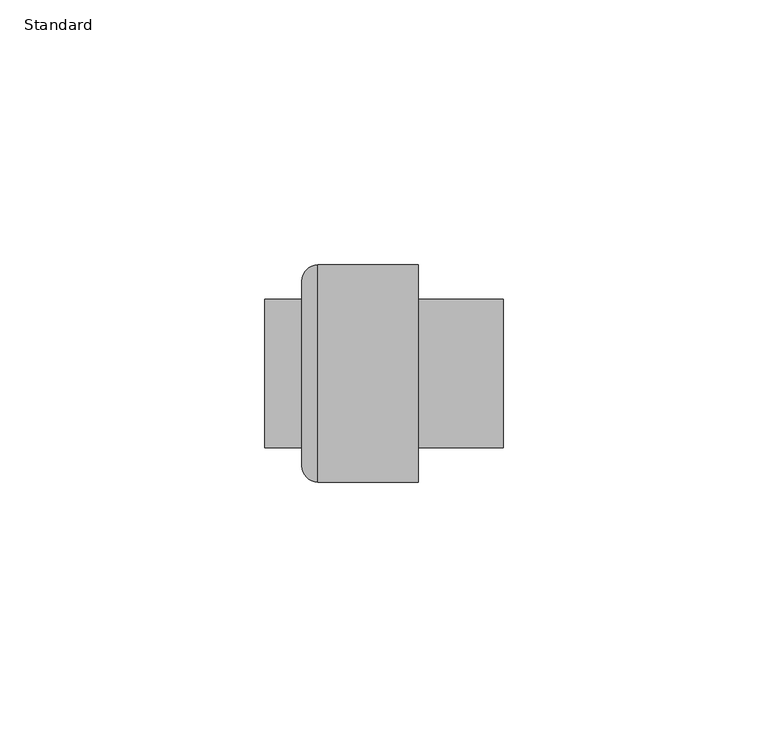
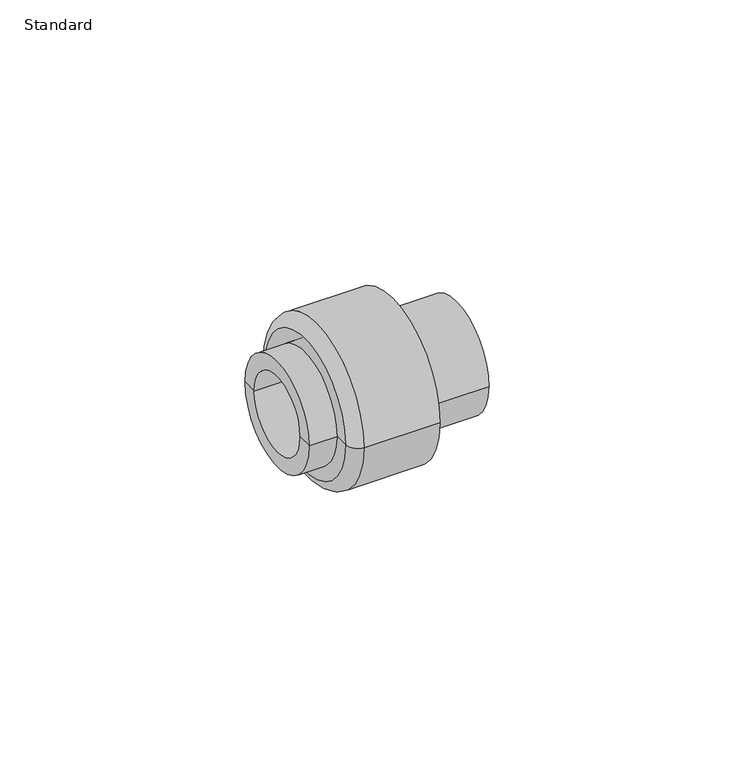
"""IFC4 building model written with IfcOpenShell, lengths in millimetres: pipe fitting geometry, Durapipe_PipeFitting_PVC_SocketUnions : Standard."""

import ifcopenshell
import ifcopenshell.guid

model = None  # the IFC model being written
_history = None  # IfcOwnerHistory: only IFC2X3 demands one
_inside = {}  # id of a spatial element -> (the spatial element, [elements in it])
_under = {}  # id of a project, library or spatial element -> (it, [spatial elements below it])
_declared = {}  # id of a project -> (the project, [libraries it declares])
_typed = {}  # id of a type object -> (the type object, [elements of that type])
_made_of = {}  # id of a material, layer set ... -> (it, [elements and type objects made of it])


def new_model(schema):
    """Start an empty IFC model of exactly this schema.

    Asked for "IFC4X3", IfcOpenShell would pick the latest addendum, in which some entities
    have other attributes; the version numbers below select the first issue.
    IFC2X3 requires an IfcOwnerHistory on every rooted entity: one is made here for all.
    """
    global model, _history
    if schema == "IFC4X3":
        model = ifcopenshell.file(schema_version=(4, 3, 0, 0))
    else:
        model = ifcopenshell.file(schema=schema)
    _inside.clear()
    _under.clear()
    _declared.clear()
    _typed.clear()
    _made_of.clear()
    _history = None
    if model.schema == "IFC2X3":
        org = make("IfcOrganization", Name="unknown")
        user = make(
            "IfcPersonAndOrganization",
            ThePerson=make("IfcPerson", FamilyName="unknown"),
            TheOrganization=org,
        )
        app = make(
            "IfcApplication",
            ApplicationDeveloper=org,
            Version="unknown",
            ApplicationFullName="unknown",
            ApplicationIdentifier="unknown",
        )
        _history = make(
            "IfcOwnerHistory",
            OwningUser=user,
            OwningApplication=app,
            ChangeAction="ADDED",
            CreationDate=0,
        )
    return model


def make(cls, **values):
    """One entity of the class cls with the attributes given. An attribute that is None is left unset."""
    return model.create_entity(
        cls, **{name: value for name, value in values.items() if value is not None}
    )


def rooted(cls, **values):
    """An entity with a GlobalId (a new one), such as an element, a storey or a relation."""
    return make(cls, GlobalId=ifcopenshell.guid.new(), OwnerHistory=_history, **values)


def si_unit(unit_type, name, prefix=None):
    """IfcSIUnit, for example si_unit("LENGTHUNIT", "METRE", prefix="MILLI")."""
    return make("IfcSIUnit", UnitType=unit_type, Prefix=prefix, Name=name)


def assignment(units):
    """IfcUnitAssignment: the units of a project."""
    return None if units is None else make("IfcUnitAssignment", Units=units)


def point(xyz):
    """IfcCartesianPoint."""
    return None if xyz is None else make("IfcCartesianPoint", Coordinates=xyz)


def direction(xyz):
    """IfcDirection."""
    return None if xyz is None else make("IfcDirection", DirectionRatios=xyz)


def frame(location, z_axis=None, x_axis=None):
    """IfcAxis2Placement3D, a coordinate frame: its origin and axes. An axis left out is left unset."""
    return make(
        "IfcAxis2Placement3D",
        Location=point(location),
        Axis=direction(z_axis),
        RefDirection=direction(x_axis),
    )


def origin():
    """The frame at (0, 0, 0) with its axes left unset."""
    return frame((0.0, 0.0, 0.0))


def place(relative_to, where):
    """IfcLocalPlacement: puts the frame where relative to a parent placement (None: the world)."""
    return make(
        "IfcLocalPlacement", PlacementRelTo=relative_to, RelativePlacement=where
    )


def context(
    kind, dimensions, precision=None, world=None, true_north=None, identifier=None
):
    """IfcGeometricRepresentationContext, for example the 3D "Model" context."""
    return make(
        "IfcGeometricRepresentationContext",
        ContextIdentifier=identifier,
        ContextType=kind,
        CoordinateSpaceDimension=dimensions,
        Precision=precision,
        WorldCoordinateSystem=world,
        TrueNorth=true_north,
    )


def project(units=None, contexts=None):
    """IfcProject with its units and contexts."""
    return rooted(
        "IfcProject",
        Name="project",
        RepresentationContexts=contexts,
        UnitsInContext=assignment(units),
    )


def spatial(cls, under=None, at=None, **own):
    """A site, building, storey or space (cls), placed at a placement, below another one or the project."""
    s = rooted(cls, ObjectPlacement=at, **own)
    if under is not None:
        _under.setdefault(under.id(), (under, []))[1].append(s)
    return s


def polyline(points):
    """IfcPolyline through the points."""
    return make("IfcPolyline", Points=[point(p) for p in points])


def circle_curve(where, radius):
    """IfcCircle in the frame where."""
    return make("IfcCircle", Position=where, Radius=radius)


def ellipse_curve(where, semi_axis1, semi_axis2):
    """IfcEllipse in the frame where."""
    return make(
        "IfcEllipse", Position=where, SemiAxis1=semi_axis1, SemiAxis2=semi_axis2
    )


def trimmed(basis, trim1, trim2, sense, master):
    """IfcTrimmedCurve: the piece of a basis curve between two trims."""
    return make(
        "IfcTrimmedCurve",
        BasisCurve=basis,
        Trim1=trim1,
        Trim2=trim2,
        SenseAgreement=sense,
        MasterRepresentation=master,
    )


def shape(context_of_items, identifier, shape_type, items):
    """IfcShapeRepresentation: the items that make up one representation, for example the "Body"."""
    return make(
        "IfcShapeRepresentation",
        ContextOfItems=context_of_items,
        RepresentationIdentifier=identifier,
        RepresentationType=shape_type,
        Items=items,
    )


def source(mapping_origin, context_of_items, identifier, shape_type, items):
    """IfcRepresentationMap: a shape defined once, which mapped items show again and again."""
    return make(
        "IfcRepresentationMap",
        MappingOrigin=mapping_origin,
        MappedRepresentation=shape(context_of_items, identifier, shape_type, items),
    )


def transform(
    local_origin,
    x_axis=None,
    y_axis=None,
    z_axis=None,
    scale=None,
    scale2=None,
    scale3=None,
    uniform=True,
):
    """IfcCartesianTransformationOperator3D, or its non-uniform kind. x_axis, y_axis, z_axis: its Axis1, 2, 3."""
    if uniform:
        return make(
            "IfcCartesianTransformationOperator3D",
            Axis1=direction(x_axis),
            Axis2=direction(y_axis),
            LocalOrigin=point(local_origin),
            Scale=scale,
            Axis3=direction(z_axis),
        )
    return make(
        "IfcCartesianTransformationOperator3DnonUniform",
        Axis1=direction(x_axis),
        Axis2=direction(y_axis),
        LocalOrigin=point(local_origin),
        Scale=scale,
        Axis3=direction(z_axis),
        Scale2=scale2,
        Scale3=scale3,
    )


def mapped(mapping_source, mapping_target):
    """IfcMappedItem: shows the shape of a source again, moved by a transform."""
    return make(
        "IfcMappedItem", MappingSource=mapping_source, MappingTarget=mapping_target
    )


def made_of(thing, what):
    """Note that an element or type object is made of a material, layer set ...; save() writes the relation."""
    if what is not None:
        _made_of.setdefault(what.id(), (what, []))[1].append(thing)
    return thing


def element(
    cls,
    number,
    at=None,
    inside=None,
    cuts=None,
    type_object=None,
    material=None,
    context=None,
    identifier="Body",
    shape_type=None,
    held_by="IfcProductDefinitionShape",
    body=None,
    shapes=None,
    **own,
):
    """One element of the class cls, such as IfcWall. Its Tag is "e" and its number.

    at: its placement. inside: the storey or other place that contains it. cuts: it is an
    opening in that element (IfcRelVoidsElement). A single representation is given by context,
    identifier, shape_type and body (its items); several are given by shapes. held_by: the class
    of the entity that holds the representations. save() writes the other relations.
    """
    e = rooted(cls, Tag="e%d" % number, ObjectPlacement=at, **own)
    if body is not None:
        shapes = [shape(context, identifier, shape_type, body)]
    if shapes is not None:
        e.Representation = make(held_by, Representations=shapes)
    if inside is not None:
        _inside.setdefault(inside.id(), (inside, []))[1].append(e)
    if cuts is not None:
        rooted(
            "IfcRelVoidsElement", RelatingBuildingElement=cuts, RelatedOpeningElement=e
        )
    if type_object is not None:
        _typed.setdefault(type_object.id(), (type_object, []))[1].append(e)
    return made_of(e, material)


def aggregate(whole, parts):
    """IfcRelAggregates: a whole, such as a stair, and the parts it consists of."""
    return rooted("IfcRelAggregates", RelatingObject=whole, RelatedObjects=parts)


def save(model, path):
    """Write the relations noted so far, then the file.

    IfcRelAggregates (storeys below a building ...), IfcRelContainedInSpatialStructure (elements
    in a storey), IfcRelDefinesByType, IfcRelAssociatesMaterial and IfcRelDeclares: one each for
    every whole, place, type object, material and project.
    """
    for whole, parts in _under.values():
        aggregate(whole, parts)
    for where, things in _inside.values():
        rooted(
            "IfcRelContainedInSpatialStructure",
            RelatedElements=things,
            RelatingStructure=where,
        )
    for kind, things in _typed.values():
        rooted("IfcRelDefinesByType", RelatedObjects=things, RelatingType=kind)
    for what, things in _made_of.values():
        rooted("IfcRelAssociatesMaterial", RelatedObjects=things, RelatingMaterial=what)
    for by, libraries in _declared.values():
        rooted("IfcRelDeclares", RelatingContext=by, RelatedDefinitions=libraries)
    model.write(path)


def plane_surface(at):
    """IfcPlane: the flat surface through the origin of the frame at, square to its z axis."""
    return make("IfcPlane", Position=at)


def cylinder_surface(at, radius):
    """IfcCylindricalSurface: all points at the distance radius from the z axis of the frame at."""
    return make("IfcCylindricalSurface", Position=at, Radius=radius)


def revolved_surface(curve, axis_point, axis_direction):
    """IfcSurfaceOfRevolution: the curve turned about the line through axis_point along axis_direction."""
    return make(
        "IfcSurfaceOfRevolution",
        SweptCurve=make("IfcArbitraryOpenProfileDef", ProfileType="CURVE", Curve=curve),
        AxisPosition=make("IfcAxis1Placement", Location=point(axis_point), Axis=direction(axis_direction)),
    )


def advanced_brep(points, edges, surfaces, faces):
    """IfcAdvancedBrep: a solid bounded by faces that lie on surfaces and meet in shared edges.

    An edge is (start, end): straight between two places in points (the first is 0);
    or (start, end, curve); or (start, end, curve, False) where it runs against its curve.
    A face is (place in surfaces, loops), or (place, loops, False) where it looks against
    its surface's normal. A loop lists edges by number (the first is 1), with a minus sign
    where the edge is run from its end to its start. The first loop is the outer one.
    """
    corners = [point(p) for p in points]
    vertices = [make("IfcVertexPoint", VertexGeometry=c) for c in corners]
    made = []
    for start, end, *more in edges:
        made.append(
            make(
                "IfcEdgeCurve",
                EdgeStart=vertices[start],
                EdgeEnd=vertices[end],
                EdgeGeometry=more[0] if more else make("IfcPolyline", Points=[corners[start], corners[end]]),
                SameSense=more[1] if len(more) > 1 else True,
            )
        )
    hull = []
    for where, loops, *sense in faces:
        bounds = []
        for j, loop in enumerate(loops):
            ring = [make("IfcOrientedEdge", EdgeElement=made[abs(k) - 1], Orientation=k > 0) for k in loop]
            bounds.append(
                make(
                    "IfcFaceOuterBound" if j == 0 else "IfcFaceBound",
                    Bound=make("IfcEdgeLoop", EdgeList=ring),
                    Orientation=True,
                )
            )
        hull.append(make("IfcAdvancedFace", Bounds=bounds, FaceSurface=surfaces[where], SameSense=sense[0] if sense else True))
    return make("IfcAdvancedBrep", Outer=make("IfcClosedShell", CfsFaces=hull))


def standard_3ef27521(model_context):
    return source(origin(), model_context, "Body", "AdvancedBrep", [
        advanced_brep(
        [(-13.5, -14.0, 0.0), (-13.5, 14.0, 0.0), (-13.5, 17.5, 0.0), (-13.5, -17.5, 0.0), (8.5, -20.5, 0.0), (8.5, 20.5, 0.0), (8.5, 14.0, 0.0), (8.5, -14.0, 0.0), (-10.5, -20.5, 0.0), (-10.5, 20.5, 0.0)],
        [
            (0, 1, circle_curve(frame((-13.5, 0.0, 0.0), z_axis=(1.0, 0.0, 0.0), x_axis=(0.0, 1.0, 0.0)), 14.0)),
            (1, 2),
            (2, 3, circle_curve(frame((-13.5, 0.0, 0.0), z_axis=(-1.0, 0.0, 0.0), x_axis=(0.0, 1.0, 0.0)), 17.5)),
            (3, 0),
            (1, 0, circle_curve(frame((-13.5, 0.0, 0.0), z_axis=(1.0, 0.0, 0.0), x_axis=(0.0, 1.0, 0.0)), 14.0)),
            (3, 2, circle_curve(frame((-13.5, 0.0, 0.0), z_axis=(-1.0, 0.0, 0.0), x_axis=(0.0, 1.0, 0.0)), 17.5)),
            (4, 5, circle_curve(frame((8.5, 0.0, 0.0), z_axis=(1.0, 0.0, 0.0), x_axis=(0.0, 1.0, 0.0)), 20.5)),
            (5, 6),
            (6, 7, circle_curve(frame((8.5, 0.0, 0.0), z_axis=(-1.0, 0.0, 0.0), x_axis=(0.0, 1.0, 0.0)), 14.0)),
            (7, 4),
            (5, 4, circle_curve(frame((8.5, 0.0, 0.0), z_axis=(1.0, 0.0, 0.0), x_axis=(0.0, 1.0, 0.0)), 20.5)),
            (7, 6, circle_curve(frame((8.5, 0.0, 0.0), z_axis=(-1.0, 0.0, 0.0), x_axis=(0.0, 1.0, 0.0)), 14.0)),
            (8, 9, circle_curve(frame((-10.5, 0.0, 0.0), z_axis=(1.0, 0.0, 0.0), x_axis=(0.0, 1.0, 0.0)), 20.5)),
            (9, 5),
            (4, 8),
            (9, 8, circle_curve(frame((-10.5, 0.0, 0.0), z_axis=(1.0, 0.0, 0.0), x_axis=(0.0, 1.0, 0.0)), 20.5)),
            (2, 9, circle_curve(frame((-10.5, 17.5, 0.0), z_axis=(0.0, 0.0, -1.0), x_axis=(1.0, 0.0, 0.0)), 3.0)),
            (8, 3, circle_curve(frame((-10.5, -17.5, 0.0), z_axis=(0.0, 0.0, -1.0), x_axis=(1.0, 0.0, 0.0)), 3.0)),
            (6, 1),
            (0, 7),
        ],
        [
            plane_surface(frame((-13.5, 0.0, 0.0), z_axis=(-1.0, 0.0, 0.0), x_axis=(0.0, 1.0, 0.0))),
            plane_surface(frame((8.5, 0.0, 0.0), z_axis=(1.0, 0.0, 0.0), x_axis=(0.0, 1.0, 0.0))),
            cylinder_surface(frame((2000.0, 0.0, 0.0), z_axis=(-1.0, 0.0, 0.0), x_axis=(0.0, 1.0, 0.0)), 20.5),
            revolved_surface(trimmed(ellipse_curve(frame((-10.5, 17.5, 0.0), z_axis=(0.0, 0.0, 1.0), x_axis=(1.0, 0.0, 0.0)), 3.0, 3.0), [point((-10.5, 20.5, 0.0))], [point((-13.5, 17.5, 0.0))], True, "CARTESIAN"), (2000.0, 0.0, 0.0), (-1.0, 0.0, 0.0)),
            revolved_surface(polyline([(-13.5, 14.0, 0.0), (8.5, 14.0, 0.0)]), (2000.0, 0.0, 0.0), (-1.0, 0.0, 0.0)),
        ],
        [
            (0, [[1, 2, 3, 4]]),
            (0, [[5, -4, 6, -2]]),
            (1, [[7, 8, 9, 10]]),
            (1, [[11, -10, 12, -8]]),
            (2, [[13, 14, -7, 15]]),
            (2, [[16, -15, -11, -14]]),
            (3, [[-3, 17, -13, 18]]),
            (3, [[-6, -18, -16, -17]]),
            (4, [[-9, 19, -1, 20]]),
            (4, [[-12, -20, -5, -19]]),
        ],
    ),
        advanced_brep(
        [(-4.5, -10.0, 0.0), (-4.5, 10.0, 0.0), (-20.5, 10.0, 0.0), (-20.5, -10.0, 0.0), (-4.5, 0.0, 0.0), (8.5, -10.0, 0.0), (8.5, 10.0, 0.0), (8.5, 0.0, 0.0), (-20.5, -14.0, 0.0), (-20.5, 14.0, 0.0), (24.5, 14.0, 0.0), (24.5, -14.0, 0.0), (24.5, -10.0, 0.0), (24.5, 10.0, 0.0)],
        [
            (0, 1, circle_curve(frame((-4.5, 0.0, 0.0), z_axis=(1.0, 0.0, 0.0), x_axis=(0.0, 1.0, 0.0)), 10.0)),
            (1, 2),
            (2, 3, circle_curve(frame((-20.5, 0.0, 0.0), z_axis=(-1.0, 0.0, 0.0), x_axis=(0.0, 1.0, 0.0)), 10.0)),
            (3, 0),
            (1, 0, circle_curve(frame((-4.5, 0.0, 0.0), z_axis=(1.0, 0.0, 0.0), x_axis=(0.0, 1.0, 0.0)), 10.0)),
            (3, 2, circle_curve(frame((-20.5, 0.0, 0.0), z_axis=(-1.0, 0.0, 0.0), x_axis=(0.0, 1.0, 0.0)), 10.0)),
            (4, 1),
            (0, 4),
            (5, 6, circle_curve(frame((8.5, 0.0, 0.0), z_axis=(1.0, 0.0, 0.0), x_axis=(0.0, 1.0, 0.0)), 10.0)),
            (6, 7),
            (7, 5),
            (6, 5, circle_curve(frame((8.5, 0.0, 0.0), z_axis=(1.0, 0.0, 0.0), x_axis=(0.0, 1.0, 0.0)), 10.0)),
            (8, 9, circle_curve(frame((-20.5, 0.0, 0.0), z_axis=(1.0, 0.0, 0.0), x_axis=(0.0, 1.0, 0.0)), 14.0)),
            (9, 10),
            (10, 11, circle_curve(frame((24.5, 0.0, 0.0), z_axis=(-1.0, 0.0, 0.0), x_axis=(0.0, 1.0, 0.0)), 14.0)),
            (11, 8),
            (9, 8, circle_curve(frame((-20.5, 0.0, 0.0), z_axis=(1.0, 0.0, 0.0), x_axis=(0.0, 1.0, 0.0)), 14.0)),
            (11, 10, circle_curve(frame((24.5, 0.0, 0.0), z_axis=(-1.0, 0.0, 0.0), x_axis=(0.0, 1.0, 0.0)), 14.0)),
            (2, 9),
            (8, 3),
            (12, 13, circle_curve(frame((24.5, 0.0, 0.0), z_axis=(1.0, 0.0, 0.0), x_axis=(0.0, 1.0, 0.0)), 10.0)),
            (13, 6),
            (5, 12),
            (13, 12, circle_curve(frame((24.5, 0.0, 0.0), z_axis=(1.0, 0.0, 0.0), x_axis=(0.0, 1.0, 0.0)), 10.0)),
            (10, 13),
            (12, 11),
        ],
        [
            revolved_surface(polyline([(-20.5, 10.0, 0.0), (-4.5, 10.0, 0.0)]), (2000.0, 0.0, 0.0), (-1.0, 0.0, 0.0)),
            plane_surface(frame((-4.5, 0.0, 0.0), z_axis=(-1.0, 0.0, 0.0), x_axis=(0.0, 1.0, 0.0))),
            plane_surface(frame((8.5, 0.0, 0.0), z_axis=(1.0, 0.0, 0.0), x_axis=(0.0, 1.0, 0.0))),
            cylinder_surface(frame((2000.0, 0.0, 0.0), z_axis=(-1.0, 0.0, 0.0), x_axis=(0.0, 1.0, 0.0)), 14.0),
            plane_surface(frame((-20.5, 0.0, 0.0), z_axis=(-1.0, 0.0, 0.0), x_axis=(0.0, 1.0, 0.0))),
            revolved_surface(polyline([(8.5, 10.0, 0.0), (24.5, 10.0, 0.0)]), (2000.0, 0.0, 0.0), (-1.0, 0.0, 0.0)),
            plane_surface(frame((24.5, 0.0, 0.0), z_axis=(1.0, 0.0, 0.0), x_axis=(0.0, 1.0, 0.0))),
        ],
        [
            (0, [[1, 2, 3, 4]]),
            (0, [[5, -4, 6, -2]]),
            (1, [[7, -1, 8]]),
            (1, [[-8, -5, -7]]),
            (2, [[9, 10, 11]]),
            (2, [[12, -11, -10]]),
            (3, [[13, 14, 15, 16]]),
            (3, [[17, -16, 18, -14]]),
            (4, [[-3, 19, -13, 20]]),
            (4, [[-6, -20, -17, -19]]),
            (5, [[21, 22, -9, 23]]),
            (5, [[24, -23, -12, -22]]),
            (6, [[-15, 25, -21, 26]]),
            (6, [[-18, -26, -24, -25]]),
        ],
    ),
    ])


if __name__ == "__main__":
    model = new_model("IFC4")
    model_context = context("Model", 3, world=origin())
    ifc_project = project(units=[si_unit("LENGTHUNIT", "METRE", prefix="MILLI")], contexts=[model_context])
    site = spatial("IfcSite", under=ifc_project)
    building = spatial("IfcBuilding", under=site)
    placement = place(None, origin())
    standard_shape = standard_3ef27521(model_context)
    element("IfcPipeFitting", 1, ObjectType="Durapipe_PipeFitting_PVC_SocketUnions : Standard", at=placement, inside=building, context=model_context, shape_type="MappedRepresentation", body=[
        mapped(standard_shape, transform((0.0, 0.0, 0.0), x_axis=(1.0, 0.0, 0.0), y_axis=(0.0, 1.0, 0.0), z_axis=(0.0, 0.0, 1.0))),
    ])
    save(model, "model.ifc")
